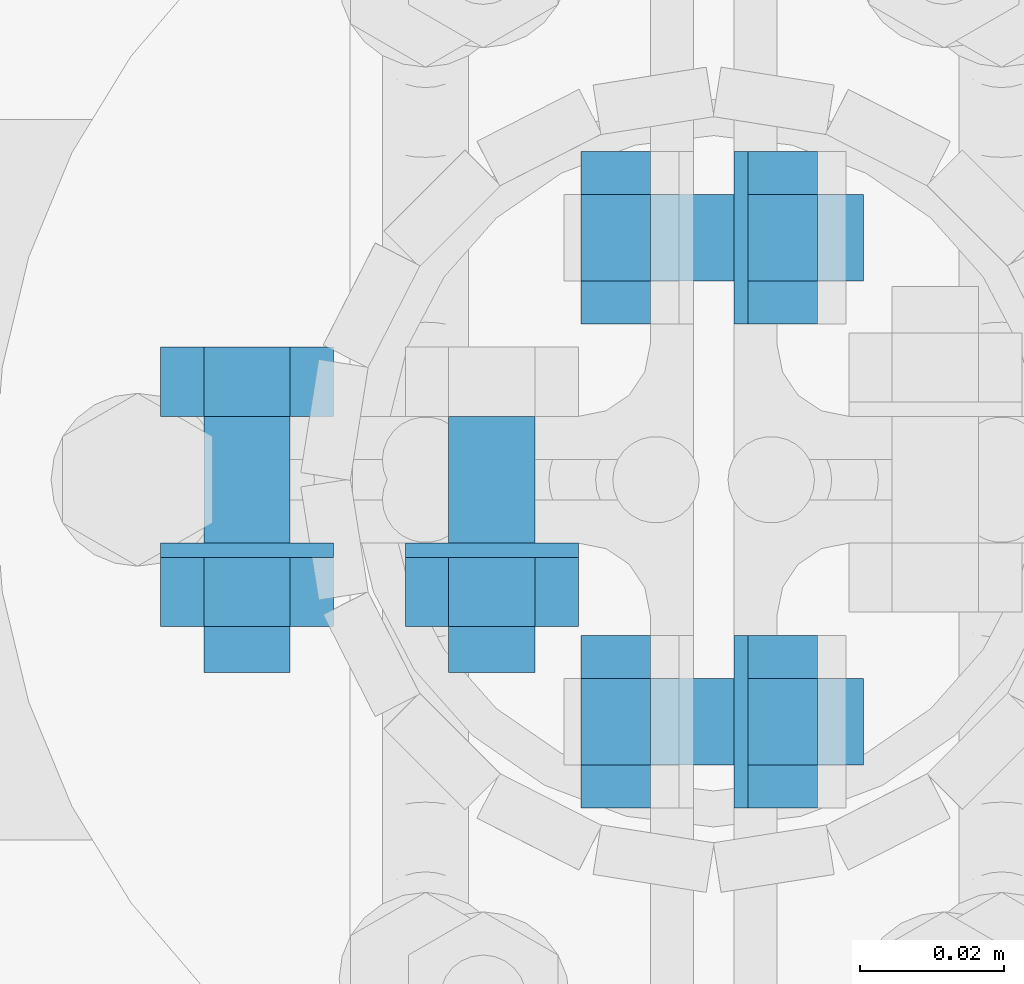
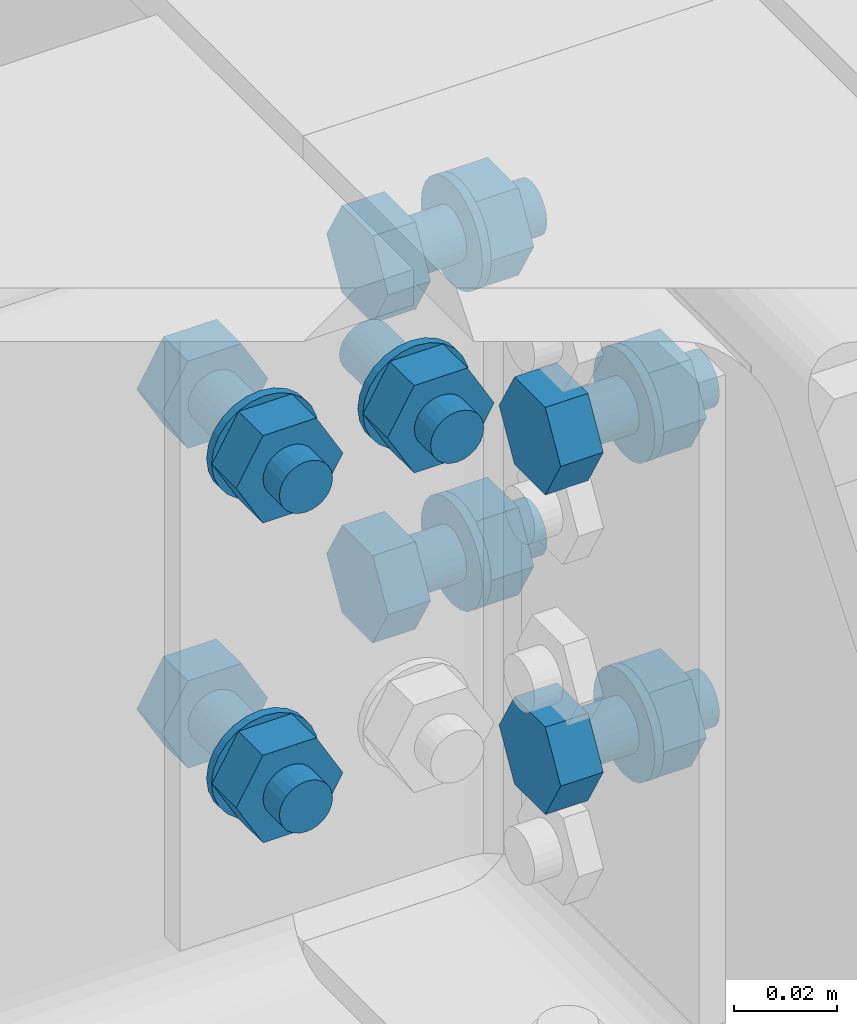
# One storey, part 57 of 84: 27 mechanical fasteners.
"""IFC4 building model written with IfcOpenShell, lengths in metres."""

from ifc_helpers import new_model, si_unit, frame, origin_with_axes, place, context, project, spatial, polyline, outline, extrude, type_object, element, save


model = new_model("IFC4")

# Units and contexts
model_context = context("Model", 3, precision=1e-05, world=origin_with_axes())
ifc_project = project(units=[si_unit("LENGTHUNIT", "METRE"), si_unit("AREAUNIT", "SQUARE_METRE"), si_unit("VOLUMEUNIT", "CUBIC_METRE"), si_unit("MASSUNIT", "GRAM", prefix="KILO"), si_unit("TIMEUNIT", "SECOND"), si_unit("PLANEANGLEUNIT", "RADIAN"), si_unit("SOLIDANGLEUNIT", "STERADIAN"), si_unit("THERMODYNAMICTEMPERATUREUNIT", "DEGREE_CELSIUS")], contexts=[model_context])

# Site, building, storey
placement_1 = place(None, origin_with_axes())
site = spatial("IfcSite", under=ifc_project, at=placement_1, Name="Italia", CompositionType="ELEMENT")
building = spatial("IfcBuilding", under=site, at=placement_1, Name="Tettoia", CompositionType="ELEMENT")
storey_placement = place(None, frame((0.0, 0.0, 4.199999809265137), z_axis=(0.0, 0.0, 1.0), x_axis=(1.0, 0.0, 0.0)))
storey = spatial("IfcBuildingStorey", under=building, at=storey_placement, Name="Storey 1", CompositionType="ELEMENT", Elevation=4.199999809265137)

# Mechanical fasteners
mechanical_fastener_type_1 = type_object("IfcMechanicalFastenerType", Name="Collegamento 0112_0111", PredefinedType="BOLT")
placement_2 = place(placement_1, origin_with_axes())
mechanical_fastener_1_placement = place(placement_2, origin_with_axes())
element("IfcMechanicalFastener", 1, at=mechanical_fastener_1_placement, inside=storey, type_object=mechanical_fastener_type_1, Name="Collegamento 0112_0111", NominalDiameter=0.012, context=model_context, shape_type="SweptSolid", body=[
    extrude(outline(polyline([(0.0, 0.0), (-0.000204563, -0.00155306), (-0.000803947, -0.00299978), (-0.00175762, -0.00424242), (-0.00300026, -0.00519609), (-0.00444698, -0.00579548), (-0.00600004, -0.00600004), (-0.0075531, -0.00579548), (-0.00899982, -0.00519609), (-0.0102425, -0.00424242), (-0.0111961, -0.00299978), (-0.0117955, -0.00155306), (-0.0120001, 0.0), (-0.0117955, 0.00155306), (-0.0111961, 0.00299978), (-0.0102425, 0.00424242), (-0.00899982, 0.00519609), (-0.0075531, 0.00579548), (-0.00600004, 0.00600004), (-0.00444698, 0.00579548), (-0.00300026, 0.00519609), (-0.00175762, 0.00424242), (-0.000803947, 0.00299978), (-0.000204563, 0.00155306), (0.0, 0.0)])), frame((4.0332, 13.9232, 4.338), z_axis=(0.0, 1.0, 0.0), x_axis=(-1.0, 0.0, 0.0)), (0.0, 0.0, 1.0), 0.0355997),
])
mechanical_fastener_type_2 = type_object("IfcMechanicalFastenerType", Name="Collegamento 0112_0111", PredefinedType="BOLT")
mechanical_fastener_2_placement = place(placement_2, origin_with_axes())
element("IfcMechanicalFastener", 2, at=mechanical_fastener_2_placement, inside=storey, type_object=mechanical_fastener_type_2, Name="Collegamento 0112_0111", NominalDiameter=0.0119999, context=model_context, shape_type="SweptSolid", body=[
    extrude(outline(polyline([(0.0, 0.0), (-0.0120001, 0.0), (-0.0180001, 0.0103922), (-0.0120001, 0.0207844), (0.0, 0.0207844), (0.00600004, 0.0103922), (0.0, 0.0)])), frame((4.0332, 13.9296, 4.32761), z_axis=(0.0, 1.0, 0.0), x_axis=(-1.0, 0.0, 0.0)), (0.0, 0.0, 1.0), 0.00959969),
])
mechanical_fastener_type_3 = type_object("IfcMechanicalFastenerType", Name="Collegamento 0112_0111", PredefinedType="BOLT")
mechanical_fastener_3_placement = place(placement_2, origin_with_axes())
element("IfcMechanicalFastener", 3, at=mechanical_fastener_3_placement, inside=storey, type_object=mechanical_fastener_type_3, Name="Collegamento 0112_0111", NominalDiameter=0.024, context=model_context, shape_type="SweptSolid", body=[
    extrude(outline(polyline([(0.0, 0.0), (-0.000409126, -0.00310564), (-0.00160789, -0.00600004), (-0.00351477, -0.00848532), (-0.00600004, -0.0103922), (-0.00889444, -0.011591), (-0.0120001, -0.0120001), (-0.0151057, -0.011591), (-0.0180001, -0.0103922), (-0.0204854, -0.00848532), (-0.0223923, -0.00600004), (-0.023591, -0.00310564), (-0.0240002, 0.0), (-0.023591, 0.00310564), (-0.0223923, 0.00600004), (-0.0204854, 0.00848532), (-0.0180001, 0.0103922), (-0.0151057, 0.011591), (-0.0120001, 0.0120001), (-0.00889444, 0.011591), (-0.00600004, 0.0103922), (-0.00351477, 0.00848532), (-0.00160789, 0.00600004), (-0.000409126, 0.00310564), (0.0, 0.0)])), frame((4.0272, 13.9392, 4.338), z_axis=(0.0, 1.0, 0.0), x_axis=(-1.0, 0.0, 0.0)), (0.0, 0.0, 1.0), 0.00200081),
])
mechanical_fastener_type_4 = type_object("IfcMechanicalFastenerType", Name="Collegamento 0112_0111", PredefinedType="BOLT")
mechanical_fastener_4_placement = place(placement_2, origin_with_axes())
element("IfcMechanicalFastener", 4, at=mechanical_fastener_4_placement, inside=storey, type_object=mechanical_fastener_type_4, Name="Collegamento 0112_0111", NominalDiameter=0.0119998, context=model_context, shape_type="SweptSolid", body=[
    extrude(outline(polyline([(0.0, 0.0), (-0.0119998, 0.0), (-0.0179999, 0.0103922), (-0.0119998, 0.0207844), (0.0, 0.0207844), (0.0059998, 0.0103922), (0.0, 0.0)])), frame((3.9992, 13.9588, 4.25161), z_axis=(0.0, 1.0, 0.0), x_axis=(-1.0, 0.0, 0.0)), (0.0, 0.0, 1.0), 0.00960064),
])
mechanical_fastener_type_5 = type_object("IfcMechanicalFastenerType", Name="Collegamento 0112_0111", PredefinedType="BOLT")
mechanical_fastener_5_placement = place(placement_2, origin_with_axes())
element("IfcMechanicalFastener", 5, at=mechanical_fastener_5_placement, inside=storey, type_object=mechanical_fastener_type_5, Name="Collegamento 0112_0111", NominalDiameter=0.012, context=model_context, shape_type="SweptSolid", body=[
    extrude(outline(polyline([(0.0, 0.0), (-0.000204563, -0.00155306), (-0.000803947, -0.00299978), (-0.00175762, -0.00424242), (-0.00300026, -0.00519609), (-0.00444698, -0.00579548), (-0.00600004, -0.00600004), (-0.0075531, -0.00579548), (-0.00899982, -0.00519609), (-0.0102425, -0.00424242), (-0.0111961, -0.00299978), (-0.0117955, -0.00155306), (-0.0120001, 0.0), (-0.0117955, 0.00155306), (-0.0111961, 0.00299978), (-0.0102425, 0.00424242), (-0.00899982, 0.00519609), (-0.0075531, 0.00579548), (-0.00600004, 0.00600004), (-0.00444698, 0.00579548), (-0.00300026, 0.00519609), (-0.00175762, 0.00424242), (-0.000803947, 0.00299978), (-0.000204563, 0.00155306), (0.0, 0.0)])), frame((3.9992, 13.9232, 4.262), z_axis=(0.0, 1.0, 0.0), x_axis=(-1.0, 0.0, 0.0)), (0.0, 0.0, 1.0), 0.0355997),
])
mechanical_fastener_type_6 = type_object("IfcMechanicalFastenerType", Name="Collegamento 0112_0111", PredefinedType="BOLT")
mechanical_fastener_6_placement = place(placement_2, origin_with_axes())
element("IfcMechanicalFastener", 6, at=mechanical_fastener_6_placement, inside=storey, type_object=mechanical_fastener_type_6, Name="Collegamento 0112_0111", NominalDiameter=0.0119998, context=model_context, shape_type="SweptSolid", body=[
    extrude(outline(polyline([(0.0, 0.0), (-0.0119998, 0.0), (-0.0179999, 0.0103922), (-0.0119998, 0.0207844), (0.0, 0.0207844), (0.0059998, 0.0103922), (0.0, 0.0)])), frame((3.9992, 13.9296, 4.25161), z_axis=(0.0, 1.0, 0.0), x_axis=(-1.0, 0.0, 0.0)), (0.0, 0.0, 1.0), 0.00959969),
])
mechanical_fastener_type_7 = type_object("IfcMechanicalFastenerType", Name="Collegamento 0112_0111", PredefinedType="BOLT")
mechanical_fastener_7_placement = place(placement_2, origin_with_axes())
element("IfcMechanicalFastener", 7, at=mechanical_fastener_7_placement, inside=storey, type_object=mechanical_fastener_type_7, Name="Collegamento 0112_0111", NominalDiameter=0.024, context=model_context, shape_type="SweptSolid", body=[
    extrude(outline(polyline([(0.0, 0.0), (-0.000408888, -0.00310564), (-0.00160789, -0.00600004), (-0.00351477, -0.00848532), (-0.00600004, -0.0103922), (-0.00889444, -0.011591), (-0.0120001, -0.0120001), (-0.0151057, -0.011591), (-0.0180001, -0.0103922), (-0.0204854, -0.00848532), (-0.0223923, -0.00600004), (-0.023591, -0.00310564), (-0.0240002, 0.0), (-0.023591, 0.00310564), (-0.0223923, 0.00600004), (-0.0204854, 0.00848532), (-0.0180001, 0.0103922), (-0.0151057, 0.011591), (-0.0120001, 0.0120001), (-0.00889444, 0.011591), (-0.00600004, 0.0103922), (-0.00351477, 0.00848532), (-0.00160789, 0.00600004), (-0.000408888, 0.00310564), (0.0, 0.0)])), frame((3.9932, 13.9392, 4.262), z_axis=(0.0, 1.0, 0.0), x_axis=(-1.0, 0.0, 0.0)), (0.0, 0.0, 1.0), 0.00200081),
])
mechanical_fastener_type_8 = type_object("IfcMechanicalFastenerType", Name="Collegamento 0112_0111", PredefinedType="BOLT")
mechanical_fastener_8_placement = place(placement_2, origin_with_axes())
element("IfcMechanicalFastener", 8, at=mechanical_fastener_8_placement, inside=storey, type_object=mechanical_fastener_type_8, Name="Collegamento 0112_0111", NominalDiameter=0.0119998, context=model_context, shape_type="SweptSolid", body=[
    extrude(outline(polyline([(0.0, 0.0), (-0.0119998, 0.0), (-0.0179999, 0.0103922), (-0.0119998, 0.0207844), (0.0, 0.0207844), (0.0059998, 0.0103922), (0.0, 0.0)])), frame((3.9992, 13.9588, 4.32761), z_axis=(0.0, 1.0, 0.0), x_axis=(-1.0, 0.0, 0.0)), (0.0, 0.0, 1.0), 0.00960064),
])
mechanical_fastener_type_9 = type_object("IfcMechanicalFastenerType", Name="Collegamento 0112_0111", PredefinedType="BOLT")
mechanical_fastener_9_placement = place(placement_2, origin_with_axes())
element("IfcMechanicalFastener", 9, at=mechanical_fastener_9_placement, inside=storey, type_object=mechanical_fastener_type_9, Name="Collegamento 0112_0111", NominalDiameter=0.012, context=model_context, shape_type="SweptSolid", body=[
    extrude(outline(polyline([(0.0, 0.0), (-0.000204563, -0.00155306), (-0.000803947, -0.00299978), (-0.00175762, -0.00424242), (-0.00300026, -0.00519609), (-0.00444698, -0.00579548), (-0.00600004, -0.00600004), (-0.0075531, -0.00579548), (-0.00899982, -0.00519609), (-0.0102425, -0.00424242), (-0.0111961, -0.00299978), (-0.0117955, -0.00155306), (-0.0120001, 0.0), (-0.0117955, 0.00155306), (-0.0111961, 0.00299978), (-0.0102425, 0.00424242), (-0.00899982, 0.00519609), (-0.0075531, 0.00579548), (-0.00600004, 0.00600004), (-0.00444698, 0.00579548), (-0.00300026, 0.00519609), (-0.00175762, 0.00424242), (-0.000803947, 0.00299978), (-0.000204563, 0.00155306), (0.0, 0.0)])), frame((3.9992, 13.9232, 4.338), z_axis=(0.0, 1.0, 0.0), x_axis=(-1.0, 0.0, 0.0)), (0.0, 0.0, 1.0), 0.0355997),
])
mechanical_fastener_type_10 = type_object("IfcMechanicalFastenerType", Name="Collegamento 0112_0111", PredefinedType="BOLT")
mechanical_fastener_10_placement = place(placement_2, origin_with_axes())
element("IfcMechanicalFastener", 10, at=mechanical_fastener_10_placement, inside=storey, type_object=mechanical_fastener_type_10, Name="Collegamento 0112_0111", NominalDiameter=0.0119998, context=model_context, shape_type="SweptSolid", body=[
    extrude(outline(polyline([(0.0, 0.0), (-0.0119998, 0.0), (-0.0179999, 0.0103922), (-0.0119998, 0.0207844), (0.0, 0.0207844), (0.0059998, 0.0103922), (0.0, 0.0)])), frame((3.9992, 13.9296, 4.32761), z_axis=(0.0, 1.0, 0.0), x_axis=(-1.0, 0.0, 0.0)), (0.0, 0.0, 1.0), 0.00959969),
])
mechanical_fastener_type_11 = type_object("IfcMechanicalFastenerType", Name="Collegamento 0112_0111", PredefinedType="BOLT")
mechanical_fastener_11_placement = place(placement_2, origin_with_axes())
element("IfcMechanicalFastener", 11, at=mechanical_fastener_11_placement, inside=storey, type_object=mechanical_fastener_type_11, Name="Collegamento 0112_0111", NominalDiameter=0.024, context=model_context, shape_type="SweptSolid", body=[
    extrude(outline(polyline([(0.0, 0.0), (-0.000408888, -0.00310564), (-0.00160789, -0.00600004), (-0.00351477, -0.00848532), (-0.00600004, -0.0103922), (-0.00889444, -0.011591), (-0.0120001, -0.0120001), (-0.0151057, -0.011591), (-0.0180001, -0.0103922), (-0.0204854, -0.00848532), (-0.0223923, -0.00600004), (-0.023591, -0.00310564), (-0.0240002, 0.0), (-0.023591, 0.00310564), (-0.0223923, 0.00600004), (-0.0204854, 0.00848532), (-0.0180001, 0.0103922), (-0.0151057, 0.011591), (-0.0120001, 0.0120001), (-0.00889444, 0.011591), (-0.00600004, 0.0103922), (-0.00351477, 0.00848532), (-0.00160789, 0.00600004), (-0.000408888, 0.00310564), (0.0, 0.0)])), frame((3.9932, 13.9392, 4.338), z_axis=(0.0, 1.0, 0.0), x_axis=(-1.0, 0.0, 0.0)), (0.0, 0.0, 1.0), 0.00200081),
])
mechanical_fastener_type_12 = type_object("IfcMechanicalFastenerType", Name="Collegamento 0112_0111", PredefinedType="BOLT")
mechanical_fastener_12_placement = place(placement_2, origin_with_axes())
element("IfcMechanicalFastener", 12, at=mechanical_fastener_12_placement, inside=storey, type_object=mechanical_fastener_type_12, Name="Collegamento 0112_0111", NominalDiameter=0.0119997, context=model_context, shape_type="SweptSolid", body=[
    extrude(outline(polyline([(0.0, 0.0), (-0.0120001, 0.0), (-0.0180006, 0.0103922), (-0.0120001, 0.0207844), (0.0, 0.0207844), (0.00599957, 0.0103922), (0.0, 0.0)])), frame((4.0612, 13.9104, 4.25161), z_axis=(-1.0, 0.0, 0.0), x_axis=(0.0, -1.0, 0.0)), (0.0, 0.0, 1.0), 0.00960016),
])
mechanical_fastener_type_13 = type_object("IfcMechanicalFastenerType", Name="Collegamento 0112_0111", PredefinedType="BOLT")
mechanical_fastener_13_placement = place(placement_2, origin_with_axes())
element("IfcMechanicalFastener", 13, at=mechanical_fastener_13_placement, inside=storey, type_object=mechanical_fastener_type_13, Name="Collegamento 0112_0111", NominalDiameter=0.012, context=model_context, shape_type="SweptSolid", body=[
    extrude(outline(polyline([(0.0, 0.0), (-0.000204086, -0.00155306), (-0.000802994, -0.00299978), (-0.00175667, -0.00424242), (-0.00299931, -0.00519609), (-0.00444698, -0.00579548), (-0.00599957, -0.00600004), (-0.00755215, -0.00579548), (-0.00899982, -0.00519609), (-0.0102425, -0.00424242), (-0.0111961, -0.00299978), (-0.011795, -0.00155306), (-0.0119991, 0.0), (-0.011795, 0.00155306), (-0.0111961, 0.00299978), (-0.0102425, 0.00424242), (-0.00899982, 0.00519609), (-0.00755215, 0.00579548), (-0.00599957, 0.00600004), (-0.00444698, 0.00579548), (-0.00299931, 0.00519609), (-0.00175667, 0.00424242), (-0.000802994, 0.00299978), (-0.000204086, 0.00155306), (0.0, 0.0)])), frame((4.0908, 13.9104, 4.262), z_axis=(-1.0, 0.0, 0.0), x_axis=(0.0, -1.0, 0.0)), (0.0, 0.0, 1.0), 0.0296001),
])
mechanical_fastener_type_14 = type_object("IfcMechanicalFastenerType", Name="Collegamento 0112_0111", PredefinedType="BOLT")
mechanical_fastener_14_placement = place(placement_2, origin_with_axes())
element("IfcMechanicalFastener", 14, at=mechanical_fastener_14_placement, inside=storey, type_object=mechanical_fastener_type_14, Name="Collegamento 0112_0111", NominalDiameter=0.0119997, context=model_context, shape_type="SweptSolid", body=[
    extrude(outline(polyline([(0.0, 0.0), (-0.0120001, 0.0), (-0.0180006, 0.0103922), (-0.0120001, 0.0207844), (0.0, 0.0207844), (0.00599957, 0.0103922), (0.0, 0.0)])), frame((4.0844, 13.9104, 4.25161), z_axis=(-1.0, 0.0, 0.0), x_axis=(0.0, -1.0, 0.0)), (0.0, 0.0, 1.0), 0.00960016),
])
mechanical_fastener_type_15 = type_object("IfcMechanicalFastenerType", Name="Collegamento 0112_0111", PredefinedType="BOLT")
mechanical_fastener_15_placement = place(placement_2, origin_with_axes())
element("IfcMechanicalFastener", 15, at=mechanical_fastener_15_placement, inside=storey, type_object=mechanical_fastener_type_15, Name="Collegamento 0112_0111", NominalDiameter=0.024, context=model_context, shape_type="SweptSolid", body=[
    extrude(outline(polyline([(0.0, 0.0), (-0.000409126, -0.00310564), (-0.00160789, -0.00600004), (-0.00351524, -0.00848532), (-0.00600052, -0.0103922), (-0.00889397, -0.011591), (-0.0120001, -0.0120001), (-0.0151062, -0.011591), (-0.0179996, -0.0103922), (-0.0204849, -0.00848532), (-0.0223923, -0.00600004), (-0.023591, -0.00310564), (-0.0240002, 0.0), (-0.023591, 0.00310564), (-0.0223923, 0.00600004), (-0.0204849, 0.00848532), (-0.0179996, 0.0103922), (-0.0151062, 0.011591), (-0.0120001, 0.0120001), (-0.00889397, 0.011591), (-0.00600052, 0.0103922), (-0.00351524, 0.00848532), (-0.00160789, 0.00600004), (-0.000409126, 0.00310564), (0.0, 0.0)])), frame((4.0748, 13.9044, 4.262), z_axis=(-1.0, 0.0, 0.0), x_axis=(0.0, -1.0, 0.0)), (0.0, 0.0, 1.0), 0.00199986),
])
mechanical_fastener_type_16 = type_object("IfcMechanicalFastenerType", Name="Collegamento 0112_0111", PredefinedType="BOLT")
mechanical_fastener_16_placement = place(placement_2, origin_with_axes())
element("IfcMechanicalFastener", 16, at=mechanical_fastener_16_placement, inside=storey, type_object=mechanical_fastener_type_16, Name="Collegamento 0112_0111", NominalDiameter=0.0119997, context=model_context, shape_type="SweptSolid", body=[
    extrude(outline(polyline([(0.0, 0.0), (-0.0120001, 0.0), (-0.0180006, 0.0103922), (-0.0120001, 0.0207844), (0.0, 0.0207844), (0.00599957, 0.0103922), (0.0, 0.0)])), frame((4.0612, 13.9104, 4.32761), z_axis=(-1.0, 0.0, 0.0), x_axis=(0.0, -1.0, 0.0)), (0.0, 0.0, 1.0), 0.00960016),
])
mechanical_fastener_type_17 = type_object("IfcMechanicalFastenerType", Name="Collegamento 0112_0111", PredefinedType="BOLT")
mechanical_fastener_17_placement = place(placement_2, origin_with_axes())
element("IfcMechanicalFastener", 17, at=mechanical_fastener_17_placement, inside=storey, type_object=mechanical_fastener_type_17, Name="Collegamento 0112_0111", NominalDiameter=0.012, context=model_context, shape_type="SweptSolid", body=[
    extrude(outline(polyline([(0.0, 0.0), (-0.000204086, -0.00155306), (-0.000802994, -0.00299978), (-0.00175667, -0.00424242), (-0.00299931, -0.00519609), (-0.00444698, -0.00579548), (-0.00599957, -0.00600004), (-0.00755215, -0.00579548), (-0.00899982, -0.00519609), (-0.0102425, -0.00424242), (-0.0111961, -0.00299978), (-0.011795, -0.00155306), (-0.0119991, 0.0), (-0.011795, 0.00155306), (-0.0111961, 0.00299978), (-0.0102425, 0.00424242), (-0.00899982, 0.00519609), (-0.00755215, 0.00579548), (-0.00599957, 0.00600004), (-0.00444698, 0.00579548), (-0.00299931, 0.00519609), (-0.00175667, 0.00424242), (-0.000802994, 0.00299978), (-0.000204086, 0.00155306), (0.0, 0.0)])), frame((4.0908, 13.9104, 4.338), z_axis=(-1.0, 0.0, 0.0), x_axis=(0.0, -1.0, 0.0)), (0.0, 0.0, 1.0), 0.0296001),
])
mechanical_fastener_type_18 = type_object("IfcMechanicalFastenerType", Name="Collegamento 0112_0111", PredefinedType="BOLT")
mechanical_fastener_18_placement = place(placement_2, origin_with_axes())
element("IfcMechanicalFastener", 18, at=mechanical_fastener_18_placement, inside=storey, type_object=mechanical_fastener_type_18, Name="Collegamento 0112_0111", NominalDiameter=0.0119997, context=model_context, shape_type="SweptSolid", body=[
    extrude(outline(polyline([(0.0, 0.0), (-0.0120001, 0.0), (-0.0180006, 0.0103922), (-0.0120001, 0.0207844), (0.0, 0.0207844), (0.00599957, 0.0103922), (0.0, 0.0)])), frame((4.0844, 13.9104, 4.32761), z_axis=(-1.0, 0.0, 0.0), x_axis=(0.0, -1.0, 0.0)), (0.0, 0.0, 1.0), 0.00960016),
])
mechanical_fastener_type_19 = type_object("IfcMechanicalFastenerType", Name="Collegamento 0112_0111", PredefinedType="BOLT")
mechanical_fastener_19_placement = place(placement_2, origin_with_axes())
element("IfcMechanicalFastener", 19, at=mechanical_fastener_19_placement, inside=storey, type_object=mechanical_fastener_type_19, Name="Collegamento 0112_0111", NominalDiameter=0.024, context=model_context, shape_type="SweptSolid", body=[
    extrude(outline(polyline([(0.0, 0.0), (-0.000409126, -0.00310564), (-0.00160789, -0.00600004), (-0.00351524, -0.00848532), (-0.00600052, -0.0103922), (-0.00889397, -0.011591), (-0.0120001, -0.0120001), (-0.0151062, -0.011591), (-0.0179996, -0.0103922), (-0.0204849, -0.00848532), (-0.0223923, -0.00600004), (-0.023591, -0.00310564), (-0.0240002, 0.0), (-0.023591, 0.00310564), (-0.0223923, 0.00600004), (-0.0204849, 0.00848532), (-0.0179996, 0.0103922), (-0.0151062, 0.011591), (-0.0120001, 0.0120001), (-0.00889397, 0.011591), (-0.00600052, 0.0103922), (-0.00351524, 0.00848532), (-0.00160789, 0.00600004), (-0.000409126, 0.00310564), (0.0, 0.0)])), frame((4.0748, 13.9044, 4.338), z_axis=(-1.0, 0.0, 0.0), x_axis=(0.0, -1.0, 0.0)), (0.0, 0.0, 1.0), 0.00199986),
])
mechanical_fastener_type_20 = type_object("IfcMechanicalFastenerType", Name="Collegamento 0112_0111", PredefinedType="BOLT")
mechanical_fastener_20_placement = place(placement_2, origin_with_axes())
element("IfcMechanicalFastener", 20, at=mechanical_fastener_20_placement, inside=storey, type_object=mechanical_fastener_type_20, Name="Collegamento 0112_0111", NominalDiameter=0.0119997, context=model_context, shape_type="SweptSolid", body=[
    extrude(outline(polyline([(0.0, 0.0), (-0.0120001, 0.0), (-0.0180006, 0.0103922), (-0.0120001, 0.0207844), (0.0, 0.0207844), (0.00599957, 0.0103922), (0.0, 0.0)])), frame((4.0516, 13.9896, 4.25161), z_axis=(1.0, 0.0, 0.0), x_axis=(0.0, 1.0, 0.0)), (0.0, 0.0, 1.0), 0.00960016),
])
mechanical_fastener_type_21 = type_object("IfcMechanicalFastenerType", Name="Collegamento 0112_0111", PredefinedType="BOLT")
mechanical_fastener_21_placement = place(placement_2, origin_with_axes())
element("IfcMechanicalFastener", 21, at=mechanical_fastener_21_placement, inside=storey, type_object=mechanical_fastener_type_21, Name="Collegamento 0112_0111", NominalDiameter=0.012, context=model_context, shape_type="SweptSolid", body=[
    extrude(outline(polyline([(0.0, 0.0), (-0.000204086, -0.00155306), (-0.000802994, -0.00299978), (-0.00175667, -0.00424242), (-0.00299931, -0.00519609), (-0.00444698, -0.00579548), (-0.00599957, -0.00600004), (-0.00755215, -0.00579548), (-0.00899982, -0.00519609), (-0.0102425, -0.00424242), (-0.0111961, -0.00299978), (-0.011795, -0.00155306), (-0.0119991, 0.0), (-0.011795, 0.00155306), (-0.0111961, 0.00299978), (-0.0102425, 0.00424242), (-0.00899982, 0.00519609), (-0.00755215, 0.00579548), (-0.00599957, 0.00600004), (-0.00444698, 0.00579548), (-0.00299931, 0.00519609), (-0.00175667, 0.00424242), (-0.000802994, 0.00299978), (-0.000204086, 0.00155306), (0.0, 0.0)])), frame((4.0612, 13.9896, 4.262), z_axis=(1.0, 0.0, 0.0), x_axis=(0.0, 1.0, 0.0)), (0.0, 0.0, 1.0), 0.0296001),
])
mechanical_fastener_type_22 = type_object("IfcMechanicalFastenerType", Name="Collegamento 0112_0111", PredefinedType="BOLT")
mechanical_fastener_22_placement = place(placement_2, origin_with_axes())
element("IfcMechanicalFastener", 22, at=mechanical_fastener_22_placement, inside=storey, type_object=mechanical_fastener_type_22, Name="Collegamento 0112_0111", NominalDiameter=0.0119997, context=model_context, shape_type="SweptSolid", body=[
    extrude(outline(polyline([(0.0, 0.0), (-0.0120001, 0.0), (-0.0180006, 0.0103922), (-0.0120001, 0.0207844), (0.0, 0.0207844), (0.00599957, 0.0103922), (0.0, 0.0)])), frame((4.0748, 13.9896, 4.25161), z_axis=(1.0, 0.0, 0.0), x_axis=(0.0, 1.0, 0.0)), (0.0, 0.0, 1.0), 0.00960016),
])
mechanical_fastener_type_23 = type_object("IfcMechanicalFastenerType", Name="Collegamento 0112_0111", PredefinedType="BOLT")
mechanical_fastener_23_placement = place(placement_2, origin_with_axes())
element("IfcMechanicalFastener", 23, at=mechanical_fastener_23_placement, inside=storey, type_object=mechanical_fastener_type_23, Name="Collegamento 0112_0111", NominalDiameter=0.024, context=model_context, shape_type="SweptSolid", body=[
    extrude(outline(polyline([(0.0, 0.0), (-0.000409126, -0.00310564), (-0.00160789, -0.00600004), (-0.00351524, -0.00848532), (-0.00600052, -0.0103922), (-0.00889397, -0.011591), (-0.0120001, -0.0120001), (-0.0151062, -0.011591), (-0.0179996, -0.0103922), (-0.0204849, -0.00848532), (-0.0223923, -0.00600004), (-0.023591, -0.00310564), (-0.0240002, 0.0), (-0.023591, 0.00310564), (-0.0223923, 0.00600004), (-0.0204849, 0.00848532), (-0.0179996, 0.0103922), (-0.0151062, 0.011591), (-0.0120001, 0.0120001), (-0.00889397, 0.011591), (-0.00600052, 0.0103922), (-0.00351524, 0.00848532), (-0.00160789, 0.00600004), (-0.000409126, 0.00310564), (0.0, 0.0)])), frame((4.0728, 13.9956, 4.262), z_axis=(1.0, 0.0, 0.0), x_axis=(0.0, 1.0, 0.0)), (0.0, 0.0, 1.0), 0.00199986),
])
mechanical_fastener_type_24 = type_object("IfcMechanicalFastenerType", Name="Collegamento 0112_0111", PredefinedType="BOLT")
mechanical_fastener_24_placement = place(placement_2, origin_with_axes())
element("IfcMechanicalFastener", 24, at=mechanical_fastener_24_placement, inside=storey, type_object=mechanical_fastener_type_24, Name="Collegamento 0112_0111", NominalDiameter=0.0119997, context=model_context, shape_type="SweptSolid", body=[
    extrude(outline(polyline([(0.0, 0.0), (-0.0120001, 0.0), (-0.0180006, 0.0103922), (-0.0120001, 0.0207844), (0.0, 0.0207844), (0.00599957, 0.0103922), (0.0, 0.0)])), frame((4.0516, 13.9896, 4.32761), z_axis=(1.0, 0.0, 0.0), x_axis=(0.0, 1.0, 0.0)), (0.0, 0.0, 1.0), 0.00960016),
])
mechanical_fastener_type_25 = type_object("IfcMechanicalFastenerType", Name="Collegamento 0112_0111", PredefinedType="BOLT")
mechanical_fastener_25_placement = place(placement_2, origin_with_axes())
element("IfcMechanicalFastener", 25, at=mechanical_fastener_25_placement, inside=storey, type_object=mechanical_fastener_type_25, Name="Collegamento 0112_0111", NominalDiameter=0.012, context=model_context, shape_type="SweptSolid", body=[
    extrude(outline(polyline([(0.0, 0.0), (-0.000204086, -0.00155306), (-0.000802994, -0.00299978), (-0.00175667, -0.00424242), (-0.00299931, -0.00519609), (-0.00444698, -0.00579548), (-0.00599957, -0.00600004), (-0.00755215, -0.00579548), (-0.00899982, -0.00519609), (-0.0102425, -0.00424242), (-0.0111961, -0.00299978), (-0.011795, -0.00155306), (-0.0119991, 0.0), (-0.011795, 0.00155306), (-0.0111961, 0.00299978), (-0.0102425, 0.00424242), (-0.00899982, 0.00519609), (-0.00755215, 0.00579548), (-0.00599957, 0.00600004), (-0.00444698, 0.00579548), (-0.00299931, 0.00519609), (-0.00175667, 0.00424242), (-0.000802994, 0.00299978), (-0.000204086, 0.00155306), (0.0, 0.0)])), frame((4.0612, 13.9896, 4.338), z_axis=(1.0, 0.0, 0.0), x_axis=(0.0, 1.0, 0.0)), (0.0, 0.0, 1.0), 0.0296001),
])
mechanical_fastener_type_26 = type_object("IfcMechanicalFastenerType", Name="Collegamento 0112_0111", PredefinedType="BOLT")
mechanical_fastener_26_placement = place(placement_2, origin_with_axes())
element("IfcMechanicalFastener", 26, at=mechanical_fastener_26_placement, inside=storey, type_object=mechanical_fastener_type_26, Name="Collegamento 0112_0111", NominalDiameter=0.0119997, context=model_context, shape_type="SweptSolid", body=[
    extrude(outline(polyline([(0.0, 0.0), (-0.0120001, 0.0), (-0.0180006, 0.0103922), (-0.0120001, 0.0207844), (0.0, 0.0207844), (0.00599957, 0.0103922), (0.0, 0.0)])), frame((4.0748, 13.9896, 4.32761), z_axis=(1.0, 0.0, 0.0), x_axis=(0.0, 1.0, 0.0)), (0.0, 0.0, 1.0), 0.00960016),
])
mechanical_fastener_type_27 = type_object("IfcMechanicalFastenerType", Name="Collegamento 0112_0111", PredefinedType="BOLT")
mechanical_fastener_27_placement = place(placement_2, origin_with_axes())
element("IfcMechanicalFastener", 27, at=mechanical_fastener_27_placement, inside=storey, type_object=mechanical_fastener_type_27, Name="Collegamento 0112_0111", NominalDiameter=0.024, context=model_context, shape_type="SweptSolid", body=[
    extrude(outline(polyline([(0.0, 0.0), (-0.000409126, -0.00310564), (-0.00160789, -0.00600004), (-0.00351524, -0.00848532), (-0.00600052, -0.0103922), (-0.00889397, -0.011591), (-0.0120001, -0.0120001), (-0.0151062, -0.011591), (-0.0179996, -0.0103922), (-0.0204849, -0.00848532), (-0.0223923, -0.00600004), (-0.023591, -0.00310564), (-0.0240002, 0.0), (-0.023591, 0.00310564), (-0.0223923, 0.00600004), (-0.0204849, 0.00848532), (-0.0179996, 0.0103922), (-0.0151062, 0.011591), (-0.0120001, 0.0120001), (-0.00889397, 0.011591), (-0.00600052, 0.0103922), (-0.00351524, 0.00848532), (-0.00160789, 0.00600004), (-0.000409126, 0.00310564), (0.0, 0.0)])), frame((4.0728, 13.9956, 4.338), z_axis=(1.0, 0.0, 0.0), x_axis=(0.0, 1.0, 0.0)), (0.0, 0.0, 1.0), 0.00199986),
])

save(model, "model.ifc")
